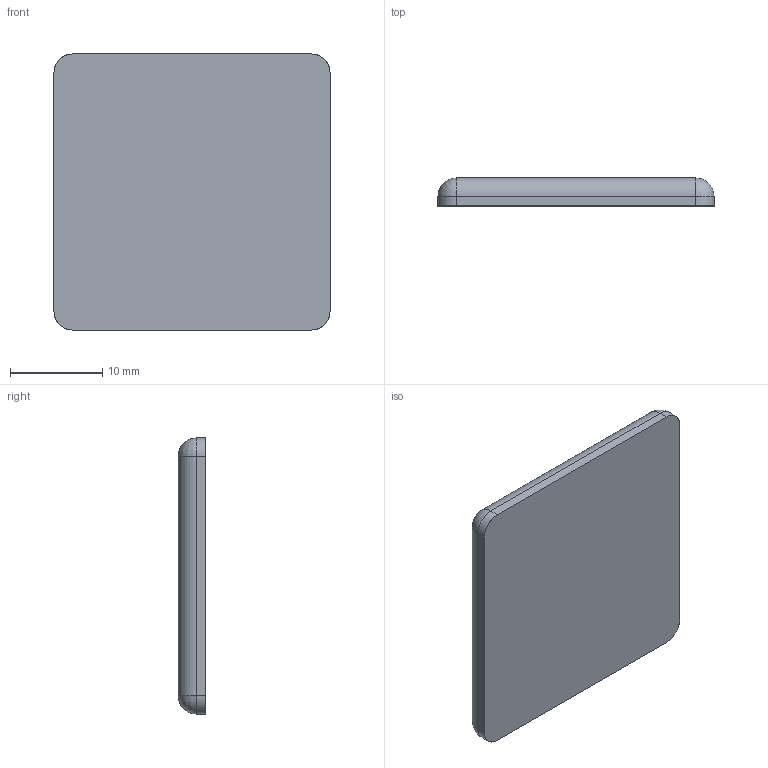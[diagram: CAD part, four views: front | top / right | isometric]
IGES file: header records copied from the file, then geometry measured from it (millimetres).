
Start section: SolidWorks IGES file using analytic representation for surfaces
Global section: file name: C:\Documents and Settings\TonookaT\デスクトップ\2008WEBCADﾃﾞｰﾀ\SFA-033.IGS; native system: SolidWorks 2006 by SolidWorks Corporation; preprocessor: SolidWorks 2006 by SolidWorks Corporation; author: TonookaT; date: 080826.134439; units: millimetre
Bounding box: 30 x 3 x 30 mm (x, y, z)
Surface area: 2041 mm2 (no closed solid volume)
Topology: 0 solids, 0 shells, 18 faces, 104 edges, 100 vertices
Faces by surface type: revolution 12, bspline 6
